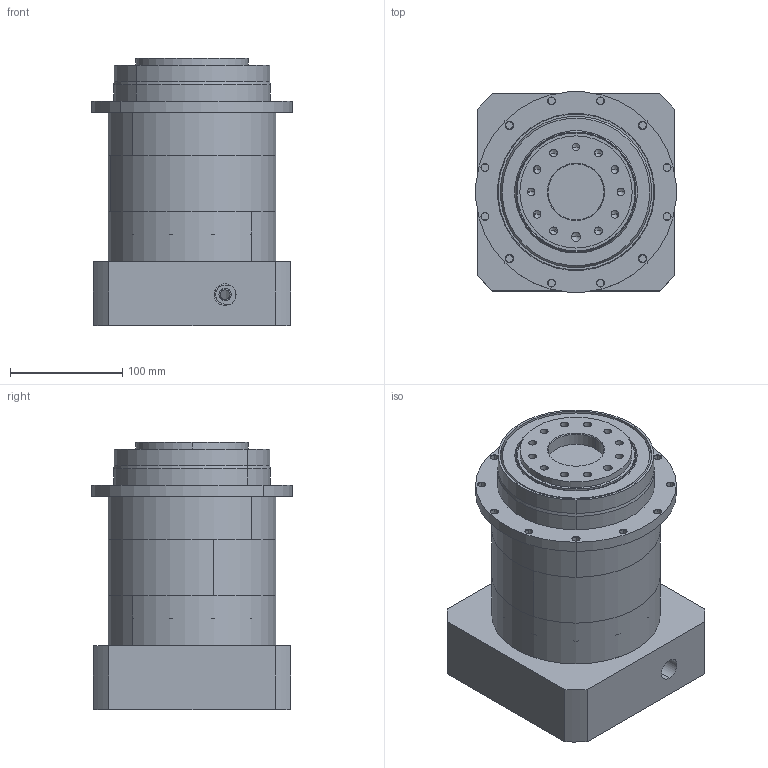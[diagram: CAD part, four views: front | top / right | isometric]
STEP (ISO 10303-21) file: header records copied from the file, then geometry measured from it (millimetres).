
FILE_DESCRIPTION (( 'STEP AP203' ), '1' );
FILE_NAME ('PLX140-L2-35-114.3-200.STEP', '2024-04-18T08:51:05', ( 'Windows User' ), ( 'P R C' ), 'SwSTEP 2.0', 'SolidWorks 2016', '' );
FILE_SCHEMA (( 'CONFIG_CONTROL_DESIGN' ));
Length unit declared in the file: millimetre
Products named in the file (13): PLX140蛌殤; 圆锥滚子轴承范本; GB／T276-94深沟球轴承6013-2RZ; PG140狟裔媼撰; PLX140梓袧蟀諉啣; 狟裔郪磁_L2; PG140-C; PLX140喘謫粣_PD140-CLZ0110; PG140齿圈; PLX140坶踡遠; 齿圈组合_L2; PLX140-L2-35-114.3-200; GB／T13871．1-2007唇形密封圈FB型B73_B1
Assembly tree (12 placements, depth 3):
  PLX140-L2-35-114.3-200
    PLX140梓袧蟀諉啣
    齿圈组合_L2
      PG140-C
      PG140齿圈
    GB／T13871．1-2007唇形密封圈FB型B73_B1
    PLX140蛌殤
    圆锥滚子轴承范本
    狟裔郪磁_L2
      GB／T276-94深沟球轴承6013-2RZ
      PG140狟裔媼撰
    PLX140喘謫粣_PD140-CLZ0110
    PLX140坶踡遠
Bounding box: 178.32 x 178.32 x 238 mm (x, y, z)
Volume: 4360218.6 mm3; surface area: 569499.1 mm2
Topology: 10 solids, 10 shells, 1329 faces, 3531 edges, 2267 vertices
Faces by surface type: plane 567, bspline 317, cylinder 295, cone 150
Entity records: 55565 total; most frequent: CARTESIAN_POINT 22928, ORIENTED_EDGE 6934, DIRECTION 5709, EDGE_CURVE 3467, VERTEX_POINT 2267, AXIS2_PLACEMENT_3D 1946, LINE 1817, VECTOR 1817
